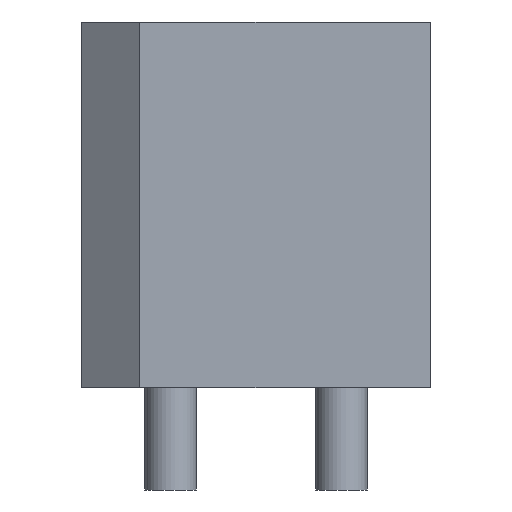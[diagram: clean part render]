
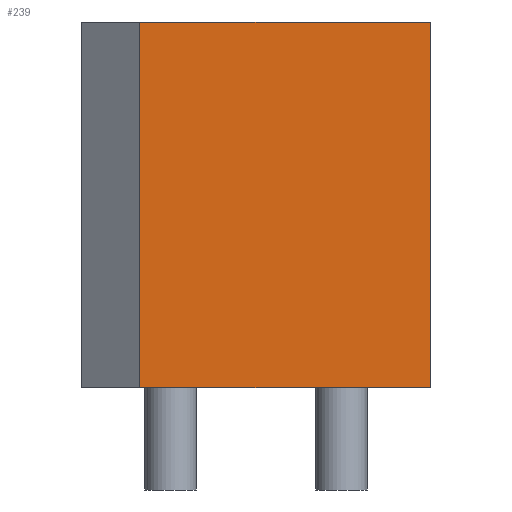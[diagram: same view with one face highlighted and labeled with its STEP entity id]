
A CAD part, front view. The second image highlights one B-rep face of the part: STEP entity #239.
In plain terms, the highlighted planar face has unit normal (0, -1, 0).
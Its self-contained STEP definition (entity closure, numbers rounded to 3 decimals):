
#58 = PLANE('',#59);
#59 = AXIS2_PLACEMENT_3D('',#60,#61,#62);
#60 = CARTESIAN_POINT('',(-2.6,-1.5,0.));
#61 = DIRECTION('',(0.607,0.794,-0.));
#62 = DIRECTION('',(0.794,-0.607,0.));
#83 = VERTEX_POINT('',#84);
#84 = CARTESIAN_POINT('',(-0.9,-2.8,10.7));
#98 = PLANE('',#99);
#99 = AXIS2_PLACEMENT_3D('',#100,#101,#102);
#100 = CARTESIAN_POINT('',(2.819,0.,10.7));
#101 = DIRECTION('',(0.,0.,1.));
#102 = DIRECTION('',(1.,0.,-0.));
#110 = EDGE_CURVE('',#111,#83,#113,.T.);
#111 = VERTEX_POINT('',#112);
#112 = CARTESIAN_POINT('',(-0.9,-2.8,0.));
#113 = SURFACE_CURVE('',#114,(#118,#125),.PCURVE_S1.);
#114 = LINE('',#115,#116);
#115 = CARTESIAN_POINT('',(-0.9,-2.8,0.));
#116 = VECTOR('',#117,1.);
#117 = DIRECTION('',(0.,0.,1.));
#118 = PCURVE('',#58,#119);
#119 = DEFINITIONAL_REPRESENTATION('',(#120),#124);
#120 = LINE('',#121,#122);
#121 = CARTESIAN_POINT('',(2.14,0.));
#122 = VECTOR('',#123,1.);
#123 = DIRECTION('',(0.,-1.));
#124 = ( GEOMETRIC_REPRESENTATION_CONTEXT(2) 
PARAMETRIC_REPRESENTATION_CONTEXT() REPRESENTATION_CONTEXT('2D SPACE',''
  ) );
#125 = PCURVE('',#126,#131);
#126 = PLANE('',#127);
#127 = AXIS2_PLACEMENT_3D('',#128,#129,#130);
#128 = CARTESIAN_POINT('',(-0.9,-2.8,0.));
#129 = DIRECTION('',(0.,1.,0.));
#130 = DIRECTION('',(1.,0.,0.));
#131 = DEFINITIONAL_REPRESENTATION('',(#132),#136);
#132 = LINE('',#133,#134);
#133 = CARTESIAN_POINT('',(0.,0.));
#134 = VECTOR('',#135,1.);
#135 = DIRECTION('',(0.,-1.));
#136 = ( GEOMETRIC_REPRESENTATION_CONTEXT(2) 
PARAMETRIC_REPRESENTATION_CONTEXT() REPRESENTATION_CONTEXT('2D SPACE',''
  ) );
#152 = PLANE('',#153);
#153 = AXIS2_PLACEMENT_3D('',#154,#155,#156);
#154 = CARTESIAN_POINT('',(2.819,0.,0.));
#155 = DIRECTION('',(0.,0.,1.));
#156 = DIRECTION('',(1.,0.,-0.));
#239 = ADVANCED_FACE('',(#240),#126,.F.);
#240 = FACE_BOUND('',#241,.F.);
#241 = EDGE_LOOP('',(#242,#243,#266,#294));
#242 = ORIENTED_EDGE('',*,*,#110,.T.);
#243 = ORIENTED_EDGE('',*,*,#244,.T.);
#244 = EDGE_CURVE('',#83,#245,#247,.T.);
#245 = VERTEX_POINT('',#246);
#246 = CARTESIAN_POINT('',(7.6,-2.8,10.7));
#247 = SURFACE_CURVE('',#248,(#252,#259),.PCURVE_S1.);
#248 = LINE('',#249,#250);
#249 = CARTESIAN_POINT('',(-0.9,-2.8,10.7));
#250 = VECTOR('',#251,1.);
#251 = DIRECTION('',(1.,0.,0.));
#252 = PCURVE('',#126,#253);
#253 = DEFINITIONAL_REPRESENTATION('',(#254),#258);
#254 = LINE('',#255,#256);
#255 = CARTESIAN_POINT('',(0.,-10.7));
#256 = VECTOR('',#257,1.);
#257 = DIRECTION('',(1.,0.));
#258 = ( GEOMETRIC_REPRESENTATION_CONTEXT(2) 
PARAMETRIC_REPRESENTATION_CONTEXT() REPRESENTATION_CONTEXT('2D SPACE',''
  ) );
#259 = PCURVE('',#98,#260);
#260 = DEFINITIONAL_REPRESENTATION('',(#261),#265);
#261 = LINE('',#262,#263);
#262 = CARTESIAN_POINT('',(-3.719,-2.8));
#263 = VECTOR('',#264,1.);
#264 = DIRECTION('',(1.,0.));
#265 = ( GEOMETRIC_REPRESENTATION_CONTEXT(2) 
PARAMETRIC_REPRESENTATION_CONTEXT() REPRESENTATION_CONTEXT('2D SPACE',''
  ) );
#266 = ORIENTED_EDGE('',*,*,#267,.F.);
#267 = EDGE_CURVE('',#268,#245,#270,.T.);
#268 = VERTEX_POINT('',#269);
#269 = CARTESIAN_POINT('',(7.6,-2.8,0.));
#270 = SURFACE_CURVE('',#271,(#275,#282),.PCURVE_S1.);
#271 = LINE('',#272,#273);
#272 = CARTESIAN_POINT('',(7.6,-2.8,0.));
#273 = VECTOR('',#274,1.);
#274 = DIRECTION('',(0.,0.,1.));
#275 = PCURVE('',#126,#276);
#276 = DEFINITIONAL_REPRESENTATION('',(#277),#281);
#277 = LINE('',#278,#279);
#278 = CARTESIAN_POINT('',(8.5,0.));
#279 = VECTOR('',#280,1.);
#280 = DIRECTION('',(0.,-1.));
#281 = ( GEOMETRIC_REPRESENTATION_CONTEXT(2) 
PARAMETRIC_REPRESENTATION_CONTEXT() REPRESENTATION_CONTEXT('2D SPACE',''
  ) );
#282 = PCURVE('',#283,#288);
#283 = PLANE('',#284);
#284 = AXIS2_PLACEMENT_3D('',#285,#286,#287);
#285 = CARTESIAN_POINT('',(7.6,-2.8,0.));
#286 = DIRECTION('',(-1.,0.,0.));
#287 = DIRECTION('',(0.,1.,0.));
#288 = DEFINITIONAL_REPRESENTATION('',(#289),#293);
#289 = LINE('',#290,#291);
#290 = CARTESIAN_POINT('',(0.,0.));
#291 = VECTOR('',#292,1.);
#292 = DIRECTION('',(0.,-1.));
#293 = ( GEOMETRIC_REPRESENTATION_CONTEXT(2) 
PARAMETRIC_REPRESENTATION_CONTEXT() REPRESENTATION_CONTEXT('2D SPACE',''
  ) );
#294 = ORIENTED_EDGE('',*,*,#295,.F.);
#295 = EDGE_CURVE('',#111,#268,#296,.T.);
#296 = SURFACE_CURVE('',#297,(#301,#308),.PCURVE_S1.);
#297 = LINE('',#298,#299);
#298 = CARTESIAN_POINT('',(-0.9,-2.8,0.));
#299 = VECTOR('',#300,1.);
#300 = DIRECTION('',(1.,0.,0.));
#301 = PCURVE('',#126,#302);
#302 = DEFINITIONAL_REPRESENTATION('',(#303),#307);
#303 = LINE('',#304,#305);
#304 = CARTESIAN_POINT('',(0.,0.));
#305 = VECTOR('',#306,1.);
#306 = DIRECTION('',(1.,0.));
#307 = ( GEOMETRIC_REPRESENTATION_CONTEXT(2) 
PARAMETRIC_REPRESENTATION_CONTEXT() REPRESENTATION_CONTEXT('2D SPACE',''
  ) );
#308 = PCURVE('',#152,#309);
#309 = DEFINITIONAL_REPRESENTATION('',(#310),#314);
#310 = LINE('',#311,#312);
#311 = CARTESIAN_POINT('',(-3.719,-2.8));
#312 = VECTOR('',#313,1.);
#313 = DIRECTION('',(1.,0.));
#314 = ( GEOMETRIC_REPRESENTATION_CONTEXT(2) 
PARAMETRIC_REPRESENTATION_CONTEXT() REPRESENTATION_CONTEXT('2D SPACE',''
  ) );
